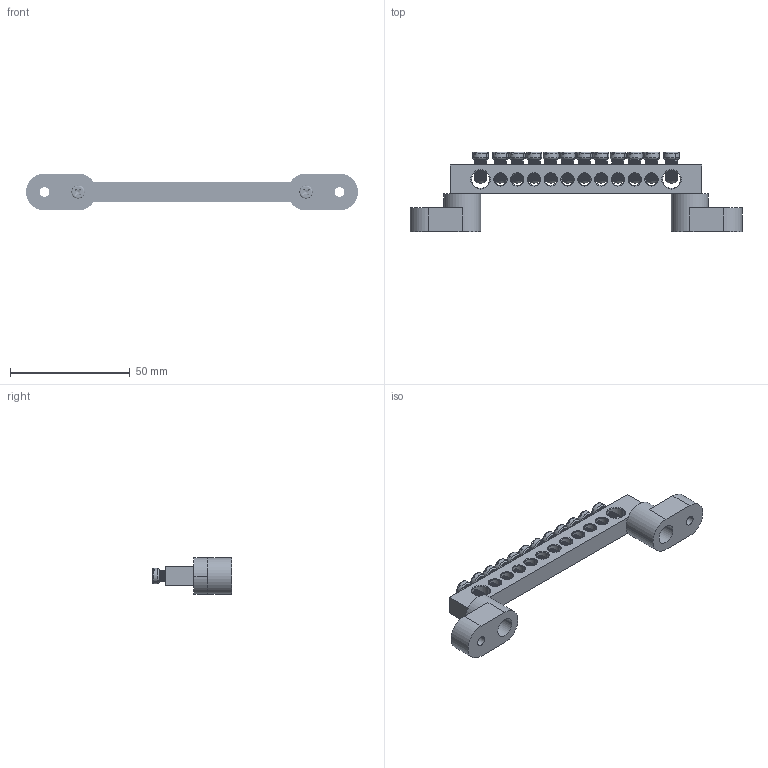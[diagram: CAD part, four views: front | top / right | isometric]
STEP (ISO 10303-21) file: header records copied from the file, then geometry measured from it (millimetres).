
FILE_DESCRIPTION (( 'STEP AP214' ), '1' );
FILE_NAME ('277906 OptiKit BB-T-N-S-12-8õ12-ñèíèé.STEP', '2020-02-06T12:39:45', ( '' ), ( '' ), 'SwSTEP 2.0', 'SolidWorks 2018', '' );
FILE_SCHEMA (( 'AUTOMOTIVE_DESIGN' ));
Length unit declared in the file: millimetre
Products named in the file (6): DIN èçîëÿòîð 2; Âèíò ì4; Øèíà íóëåâàÿ ñ êðåïåæíûìè îòâåðñòèÿìè ïî êðàÿì 8õ12 12-2_1; Âèíò ì5; Øèíà 8õ12 12 2; 277906 OptiKit BB-T-N-S-12-8õ12-ñèíèé
Assembly tree (18 placements, depth 3):
  277906 OptiKit BB-T-N-S-12-8õ12-ñèíèé
    Øèíà íóëåâàÿ ñ êðåïåæíûìè îòâåðñòèÿìè ïî êðàÿì 8õ12 12-2_1
      Øèíà 8õ12 12 2
      Âèíò ì5  x12
    Âèíò ì4  x2
    DIN èçîëÿòîð 2  x2
Bounding box: 138.4 x 33.1 x 15.4 mm (x, y, z)
Volume: 18830.1 mm3; surface area: 14873.3 mm2
Topology: 17 solids, 17 shells, 1176 faces, 3250 edges, 2096 vertices
Faces by surface type: cylinder 452, plane 396, cone 186, torus 98, bspline 44
Entity records: 13360 total; most frequent: CARTESIAN_POINT 6386, ORIENTED_EDGE 1406, DIRECTION 1285, EDGE_CURVE 703, AXIS2_PLACEMENT_3D 503, VERTEX_POINT 448, EDGE_LOOP 325, VECTOR 279
